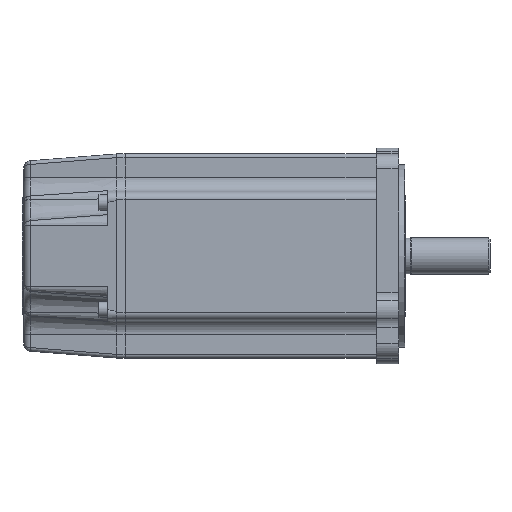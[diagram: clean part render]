
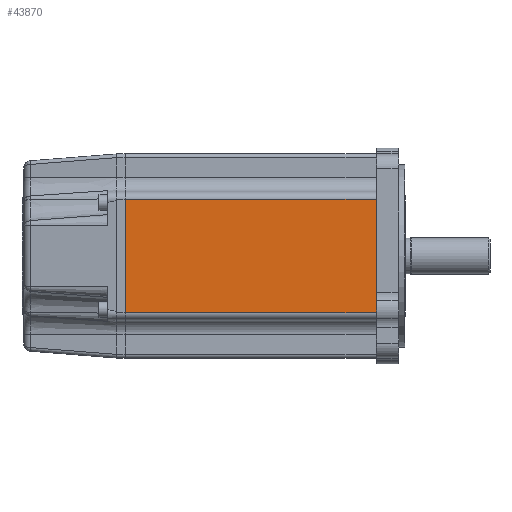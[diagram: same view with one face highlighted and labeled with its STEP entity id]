
A CAD part, front view. The second image highlights one B-rep face of the part: STEP entity #43870.
In plain terms, the highlighted planar face has unit normal (0, -1, 0).
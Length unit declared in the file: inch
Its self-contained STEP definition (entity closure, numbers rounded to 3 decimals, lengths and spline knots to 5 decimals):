
#2581 = DIRECTION ( 'NONE',  ( 0., 0., 1. ) ) ;
#6144 = FACE_OUTER_BOUND ( 'NONE', #142843, .T. ) ;
#8156 = CARTESIAN_POINT ( 'NONE',  ( -4.72, -1.76, -1.76 ) ) ;
#10952 = DIRECTION ( 'NONE',  ( 1., 0., 0. ) ) ;
#14427 = DIRECTION ( 'NONE',  ( -1., 0., 0. ) ) ;
#14546 = PLANE ( 'NONE',  #145871 ) ;
#24922 = VERTEX_POINT ( 'NONE', #50850 ) ;
#25443 = VECTOR ( 'NONE', #14427, 39.37008 ) ;
#43870 = ADVANCED_FACE ( 'NONE', ( #6144 ), #14546, .F. ) ;
#44361 = LINE ( 'NONE', #8156, #106548 ) ;
#50850 = CARTESIAN_POINT ( 'NONE',  ( -0.39, -1.76, 0.979 ) ) ;
#51234 = EDGE_CURVE ( 'NONE', #83364, #24922, #153446, .T. ) ;
#55019 = VERTEX_POINT ( 'NONE', #90858 ) ;
#67997 = DIRECTION ( 'NONE',  ( 0., 0., 1. ) ) ;
#77015 = DIRECTION ( 'NONE',  ( 0., 1., 0. ) ) ;
#79765 = VECTOR ( 'NONE', #67997, 39.37008 ) ;
#80212 = VECTOR ( 'NONE', #10952, 39.37008 ) ;
#80499 = CARTESIAN_POINT ( 'NONE',  ( -0.39, -1.76, -1.76 ) ) ;
#83364 = VERTEX_POINT ( 'NONE', #113041 ) ;
#88825 = CARTESIAN_POINT ( 'NONE',  ( -4.72, -1.76, 0.979 ) ) ;
#90858 = CARTESIAN_POINT ( 'NONE',  ( -4.72, -1.76, -0.979 ) ) ;
#93540 = VERTEX_POINT ( 'NONE', #106580 ) ;
#94481 = ORIENTED_EDGE ( 'NONE', *, *, #141973, .T. ) ;
#98274 = EDGE_CURVE ( 'NONE', #55019, #93540, #44361, .T. ) ;
#106199 = EDGE_CURVE ( 'NONE', #24922, #93540, #120661, .T. ) ;
#106548 = VECTOR ( 'NONE', #144903, 39.37008 ) ;
#106580 = CARTESIAN_POINT ( 'NONE',  ( -4.72, -1.76, 0.979 ) ) ;
#107384 = ORIENTED_EDGE ( 'NONE', *, *, #51234, .T. ) ;
#113041 = CARTESIAN_POINT ( 'NONE',  ( -0.39, -1.76, -0.979 ) ) ;
#120661 = LINE ( 'NONE', #88825, #25443 ) ;
#136155 = ORIENTED_EDGE ( 'NONE', *, *, #98274, .F. ) ;
#141973 = EDGE_CURVE ( 'NONE', #55019, #83364, #159651, .T. ) ;
#142843 = EDGE_LOOP ( 'NONE', ( #107384, #144531, #136155, #94481 ) ) ;
#144531 = ORIENTED_EDGE ( 'NONE', *, *, #106199, .T. ) ;
#144903 = DIRECTION ( 'NONE',  ( 0., 0., 1. ) ) ;
#145871 = AXIS2_PLACEMENT_3D ( 'NONE', #151231, #77015, #2581 ) ;
#151231 = CARTESIAN_POINT ( 'NONE',  ( -4.72, -1.76, -1.76 ) ) ;
#153446 = LINE ( 'NONE', #80499, #79765 ) ;
#159606 = CARTESIAN_POINT ( 'NONE',  ( -0.39, -1.76, -0.979 ) ) ;
#159651 = LINE ( 'NONE', #159606, #80212 ) ;
